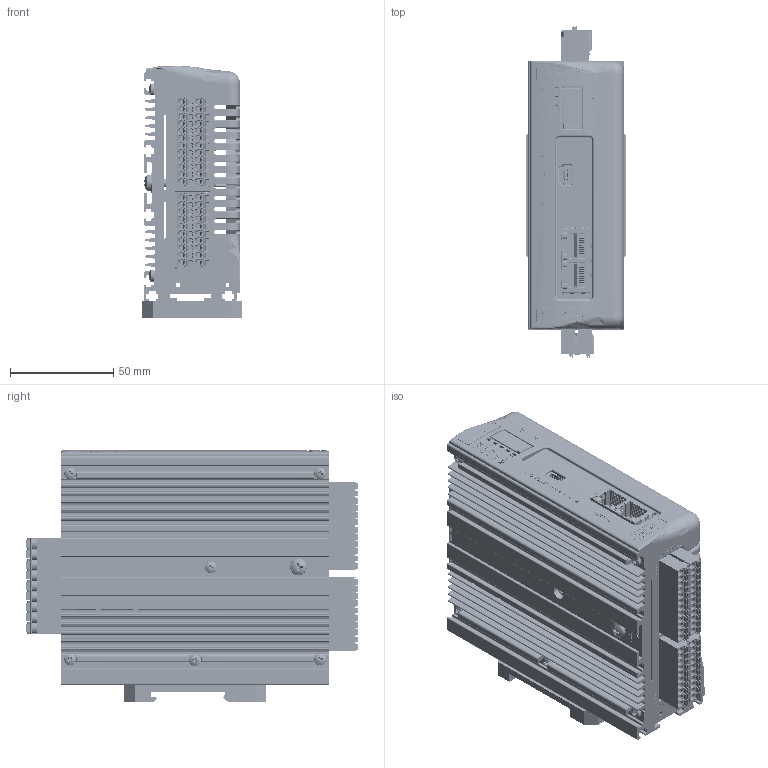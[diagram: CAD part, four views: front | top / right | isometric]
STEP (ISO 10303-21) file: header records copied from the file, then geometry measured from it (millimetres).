
FILE_DESCRIPTION (( 'STEP AP214' ), '1' );
FILE_NAME ('SMD5206xIE-JE02PPP.STEP', '2025-04-05T08:27:25', ( '' ), ( '' ), 'SwSTEP 2.0', 'SolidWorks 2019', '' );
FILE_SCHEMA (( 'AUTOMOTIVE_DESIGN' ));
Length unit declared in the file: millimetre
Products named in the file (21): VOGT_2380XM3.6MS; GE_eyelet; FIX-DIN6948; pan head cross recess screw_iso_ISO 7045 - M3 x 8 - Z --- 8N; LABPA-080x070-S2_SMD5206; PCB_SMD5106-10-04-2016; COVER_SMD51.06_a; 1923937; fmcd_1.5-12-st_3.5; pan head cross recess screw_iso_ISO 7045 - M4 x 8 - Z --- 8N; Label_Code_SMD5206xIE; pan head cross recess screw_iso_ISO 7045 - M3 x 16 - Z --- 16N; 1953790; fmcd_1.5-10-st_3.5; HEASMD5106APAN; 65100516121; 7499021125; 1953813; SMD5206xIE-JE02PPP; countersunk flat head cross recess screw_din_DIN EN ISO 7046-1 - M4 x 5 - Z - 5N; fkc_2.5_hc-9-st-5.08
Assembly tree (26 placements, depth 2):
  SMD5206xIE-JE02PPP
    VOGT_2380XM3.6MS
    GE_eyelet
    pan head cross recess screw_iso_ISO 7045 - M4 x 8 - Z --- 8N
    PCB_SMD5106-10-04-2016
    COVER_SMD51.06_a
    1923937
    65100516121
    7499021125
    pan head cross recess screw_iso_ISO 7045 - M3 x 16 - Z --- 16N  x5
    pan head cross recess screw_iso_ISO 7045 - M3 x 8 - Z --- 8N
    fmcd_1.5-10-st_3.5
    HEASMD5106APAN
    countersunk flat head cross recess screw_din_DIN EN ISO 7046-1 - M4 x 5 - Z - 5N  x3
    Label_Code_SMD5206xIE
    LABPA-080x070-S2_SMD5206
    fkc_2.5_hc-9-st-5.08
    1953790
    FIX-DIN6948
    1953813
    fmcd_1.5-12-st_3.5
Bounding box: 48 x 160.59 x 122.2 mm (x, y, z)
Volume: 243056.2 mm3; surface area: 242417.4 mm2
Topology: 28 solids, 36 shells, 19221 faces, 51770 edges, 33504 vertices
Faces by surface type: plane 11837, cylinder 3649, bspline 2974, cone 521, torus 213, sphere 27
Entity records: 893259 total; most frequent: CARTESIAN_POINT 286113, ORIENTED_EDGE 102218, DIRECTION 83660, EDGE_CURVE 51109, LINE 35444, VECTOR 35444, VERTEX_POINT 33173, AXIS2_PLACEMENT_3D 24108
